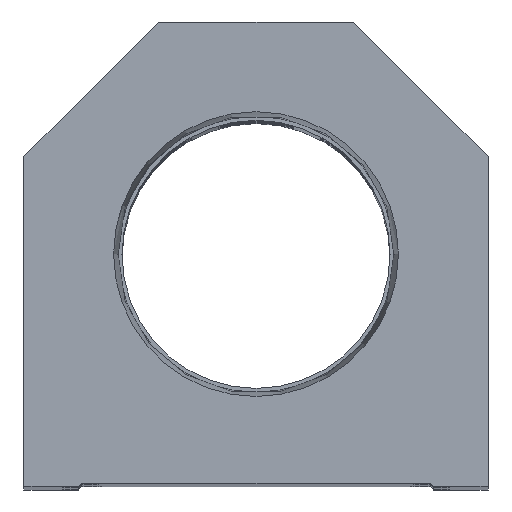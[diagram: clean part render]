
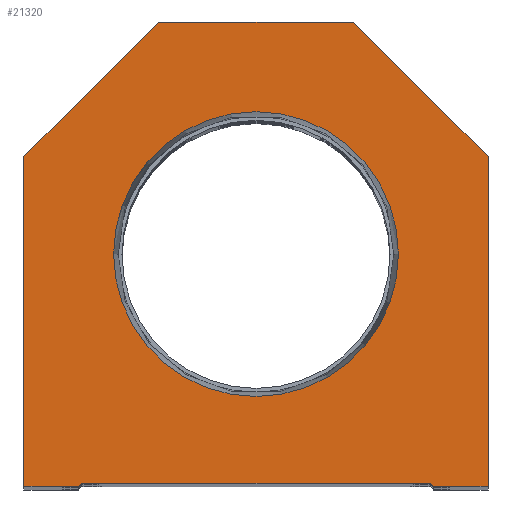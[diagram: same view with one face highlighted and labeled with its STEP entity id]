
A CAD part, top view. The second image highlights one B-rep face of the part: STEP entity #21320.
In plain terms, the highlighted planar face has unit normal (0, 0, 1).
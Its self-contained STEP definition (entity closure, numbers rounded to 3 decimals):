
#74 = CARTESIAN_POINT ( 'NONE',  ( 29.1, 0., 0. ) ) ;
#78 = DIRECTION ( 'NONE',  ( 1., 0., 0. ) ) ;
#126 = VECTOR ( 'NONE', #19887, 1000. ) ;
#355 = CARTESIAN_POINT ( 'NONE',  ( -28.6, 0., 0. ) ) ;
#402 = PLANE ( 'NONE',  #22089 ) ;
#679 = LINE ( 'NONE', #4194, #7696 ) ;
#908 = VECTOR ( 'NONE', #14251, 1000. ) ;
#1079 = EDGE_CURVE ( 'NONE', #18359, #13964, #22209, .T. ) ;
#1158 = VERTEX_POINT ( 'NONE', #21054 ) ;
#1571 = DIRECTION ( 'NONE',  ( 0., 0., 1. ) ) ;
#1579 = DIRECTION ( 'NONE',  ( 0.707, 0.707, 0. ) ) ;
#1604 = VERTEX_POINT ( 'NONE', #13933 ) ;
#1629 = LINE ( 'NONE', #3212, #19763 ) ;
#1690 = CARTESIAN_POINT ( 'NONE',  ( -14.55, 14.55, 0. ) ) ;
#1816 = CIRCLE ( 'NONE', #20166, 23.374 ) ;
#1894 = DIRECTION ( 'NONE',  ( 1., 0., 0. ) ) ;
#2333 = ORIENTED_EDGE ( 'NONE', *, *, #7980, .T. ) ;
#2869 = LINE ( 'NONE', #5808, #126 ) ;
#3212 = CARTESIAN_POINT ( 'NONE',  ( 38.1, 0., 0. ) ) ;
#3406 = EDGE_CURVE ( 'NONE', #1158, #22161, #2869, .T. ) ;
#3727 = EDGE_CURVE ( 'NONE', #6683, #9680, #11632, .T. ) ;
#4123 = VERTEX_POINT ( 'NONE', #20552 ) ;
#4194 = CARTESIAN_POINT ( 'NONE',  ( 28.6, 0., 0. ) ) ;
#4203 = EDGE_CURVE ( 'NONE', #9624, #21552, #1629, .T. ) ;
#4233 = ORIENTED_EDGE ( 'NONE', *, *, #4203, .T. ) ;
#4477 = EDGE_CURVE ( 'NONE', #4790, #14977, #19237, .T. ) ;
#4582 = ORIENTED_EDGE ( 'NONE', *, *, #3406, .T. ) ;
#4790 = VERTEX_POINT ( 'NONE', #10855 ) ;
#5052 = DIRECTION ( 'NONE',  ( 1., 0., 0. ) ) ;
#5249 = DIRECTION ( 'NONE',  ( 0., 0., 1. ) ) ;
#5370 = DIRECTION ( 'NONE',  ( -0.707, 0.707, 0. ) ) ;
#5580 = ORIENTED_EDGE ( 'NONE', *, *, #13946, .T. ) ;
#5808 = CARTESIAN_POINT ( 'NONE',  ( 16., 76.2, 0. ) ) ;
#5818 = DIRECTION ( 'NONE',  ( 0., -1., 0. ) ) ;
#5908 = FACE_BOUND ( 'NONE', #15742, .T. ) ;
#6227 = AXIS2_PLACEMENT_3D ( 'NONE', #8775, #1571, #5052 ) ;
#6272 = ORIENTED_EDGE ( 'NONE', *, *, #12462, .T. ) ;
#6458 = ORIENTED_EDGE ( 'NONE', *, *, #15453, .T. ) ;
#6683 = VERTEX_POINT ( 'NONE', #20833 ) ;
#7279 = CARTESIAN_POINT ( 'NONE',  ( -28.6, 0.5, 0. ) ) ;
#7348 = ORIENTED_EDGE ( 'NONE', *, *, #4477, .T. ) ;
#7397 = CARTESIAN_POINT ( 'NONE',  ( 38.1, 54.1, 0. ) ) ;
#7696 = VECTOR ( 'NONE', #19399, 1000. ) ;
#7980 = EDGE_CURVE ( 'NONE', #14977, #9624, #679, .T. ) ;
#8025 = ORIENTED_EDGE ( 'NONE', *, *, #3727, .F. ) ;
#8499 = DIRECTION ( 'NONE',  ( 0., 1., 0. ) ) ;
#8560 = LINE ( 'NONE', #21239, #22218 ) ;
#8775 = CARTESIAN_POINT ( 'NONE',  ( 0., 38.1, 0. ) ) ;
#9191 = LINE ( 'NONE', #7397, #16698 ) ;
#9234 = LINE ( 'NONE', #355, #908 ) ;
#9377 = FACE_OUTER_BOUND ( 'NONE', #10824, .T. ) ;
#9624 = VERTEX_POINT ( 'NONE', #14698 ) ;
#9680 = VERTEX_POINT ( 'NONE', #16023 ) ;
#9938 = CARTESIAN_POINT ( 'NONE',  ( -38.1, 54.1, 0. ) ) ;
#10043 = LINE ( 'NONE', #9938, #10864 ) ;
#10231 = EDGE_CURVE ( 'NONE', #9680, #6683, #1816, .T. ) ;
#10292 = CARTESIAN_POINT ( 'NONE',  ( -16., 76.2, 0. ) ) ;
#10675 = CARTESIAN_POINT ( 'NONE',  ( 0., 38.1, 0. ) ) ;
#10753 = CARTESIAN_POINT ( 'NONE',  ( 38.1, 54.1, 0. ) ) ;
#10824 = EDGE_LOOP ( 'NONE', ( #13491, #18786, #6458, #7348, #2333, #4233, #5580, #4582, #6272, #11412 ) ) ;
#10855 = CARTESIAN_POINT ( 'NONE',  ( 28.6, 0.5, 0. ) ) ;
#10864 = VECTOR ( 'NONE', #18636, 1000. ) ;
#11412 = ORIENTED_EDGE ( 'NONE', *, *, #18034, .T. ) ;
#11632 = CIRCLE ( 'NONE', #6227, 23.374 ) ;
#11698 = VECTOR ( 'NONE', #1894, 1000. ) ;
#12164 = CARTESIAN_POINT ( 'NONE',  ( -28.6, 0.5, 0. ) ) ;
#12462 = EDGE_CURVE ( 'NONE', #22161, #4123, #10043, .T. ) ;
#13491 = ORIENTED_EDGE ( 'NONE', *, *, #16784, .T. ) ;
#13933 = CARTESIAN_POINT ( 'NONE',  ( -38.1, 0., 0. ) ) ;
#13946 = EDGE_CURVE ( 'NONE', #21552, #1158, #9191, .T. ) ;
#13964 = VERTEX_POINT ( 'NONE', #7279 ) ;
#13975 = DIRECTION ( 'NONE',  ( 0.707, -0.707, 0. ) ) ;
#14251 = DIRECTION ( 'NONE',  ( 1., 0., 0. ) ) ;
#14698 = CARTESIAN_POINT ( 'NONE',  ( 38.1, 0., 0. ) ) ;
#14977 = VERTEX_POINT ( 'NONE', #74 ) ;
#15150 = VECTOR ( 'NONE', #13975, 1000. ) ;
#15453 = EDGE_CURVE ( 'NONE', #13964, #4790, #15555, .T. ) ;
#15555 = LINE ( 'NONE', #12164, #11698 ) ;
#15742 = EDGE_LOOP ( 'NONE', ( #8025, #21630 ) ) ;
#16023 = CARTESIAN_POINT ( 'NONE',  ( -23.374, 38.1, 0. ) ) ;
#16698 = VECTOR ( 'NONE', #5370, 1000. ) ;
#16784 = EDGE_CURVE ( 'NONE', #1604, #18359, #9234, .T. ) ;
#17080 = VECTOR ( 'NONE', #1579, 1000. ) ;
#17321 = CARTESIAN_POINT ( 'NONE',  ( 14.55, 14.55, 0. ) ) ;
#17542 = CARTESIAN_POINT ( 'NONE',  ( 0., 0., 0. ) ) ;
#18034 = EDGE_CURVE ( 'NONE', #4123, #1604, #8560, .T. ) ;
#18359 = VERTEX_POINT ( 'NONE', #20903 ) ;
#18636 = DIRECTION ( 'NONE',  ( -0.707, -0.707, 0. ) ) ;
#18786 = ORIENTED_EDGE ( 'NONE', *, *, #1079, .T. ) ;
#19237 = LINE ( 'NONE', #17321, #15150 ) ;
#19399 = DIRECTION ( 'NONE',  ( 1., 0., 0. ) ) ;
#19661 = DIRECTION ( 'NONE',  ( 0., 0., 1. ) ) ;
#19763 = VECTOR ( 'NONE', #8499, 1000. ) ;
#19887 = DIRECTION ( 'NONE',  ( -1., 0., 0. ) ) ;
#20166 = AXIS2_PLACEMENT_3D ( 'NONE', #10675, #5249, #78 ) ;
#20552 = CARTESIAN_POINT ( 'NONE',  ( -38.1, 54.1, 0. ) ) ;
#20833 = CARTESIAN_POINT ( 'NONE',  ( 23.374, 38.1, 0. ) ) ;
#20903 = CARTESIAN_POINT ( 'NONE',  ( -29.1, 0., 0. ) ) ;
#21006 = DIRECTION ( 'NONE',  ( 1., 0., 0. ) ) ;
#21054 = CARTESIAN_POINT ( 'NONE',  ( 16., 76.2, 0. ) ) ;
#21239 = CARTESIAN_POINT ( 'NONE',  ( -38.1, 0., 0. ) ) ;
#21320 = ADVANCED_FACE ( 'NONE', ( #5908, #9377 ), #402, .T. ) ;
#21552 = VERTEX_POINT ( 'NONE', #10753 ) ;
#21630 = ORIENTED_EDGE ( 'NONE', *, *, #10231, .F. ) ;
#22089 = AXIS2_PLACEMENT_3D ( 'NONE', #17542, #19661, #21006 ) ;
#22161 = VERTEX_POINT ( 'NONE', #10292 ) ;
#22209 = LINE ( 'NONE', #1690, #17080 ) ;
#22218 = VECTOR ( 'NONE', #5818, 1000. ) ;
